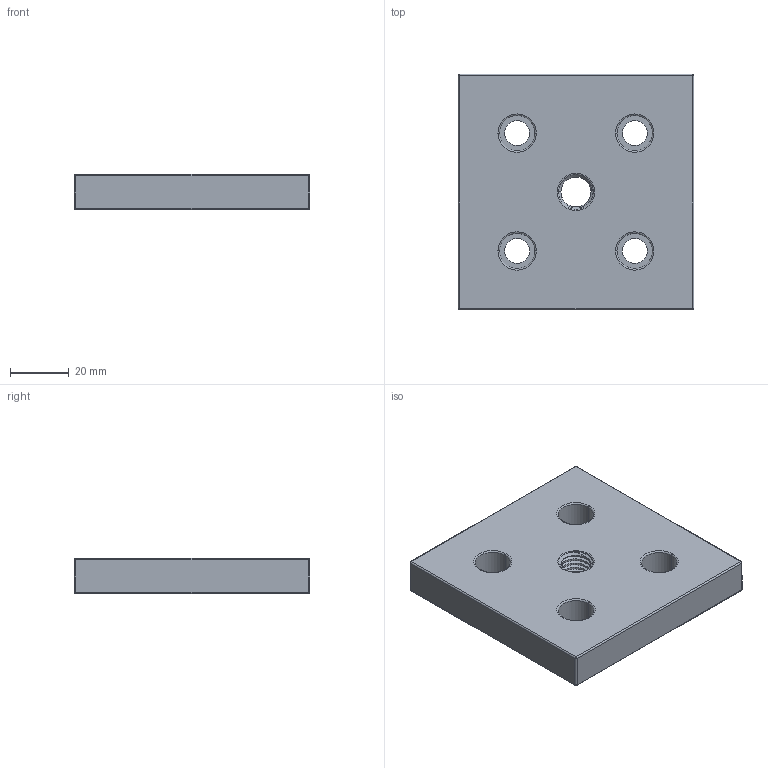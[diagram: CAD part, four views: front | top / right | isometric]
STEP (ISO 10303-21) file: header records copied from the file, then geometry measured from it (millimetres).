
FILE_DESCRIPTION (( 'STEP AP203' ), '1' );
FILE_NAME ('105-CE-SEC8080-8.STEP', '2015-07-09T08:39:30', ( '' ), ( '' ), 'SwSTEP 2.0', 'SolidWorks 2013', '' );
FILE_SCHEMA (( 'CONFIG_CONTROL_DESIGN' ));
Length unit declared in the file: millimetre
Products named in the file (1): 105-CE-SEC8080-8
Bounding box: 80 x 80 x 12 mm (x, y, z)
Volume: 70902.9 mm3; surface area: 18129.3 mm2
Topology: 1 solids, 1 shells, 76 faces, 183 edges, 105 vertices
Faces by surface type: cylinder 42, torus 10, plane 10, sphere 8, cone 4, bspline 2
Entity records: 3422 total; most frequent: CARTESIAN_POINT 1647, DIRECTION 372, ORIENTED_EDGE 350, EDGE_CURVE 175, AXIS2_PLACEMENT_3D 158, VERTEX_POINT 105, EDGE_LOOP 90, CIRCLE 83
